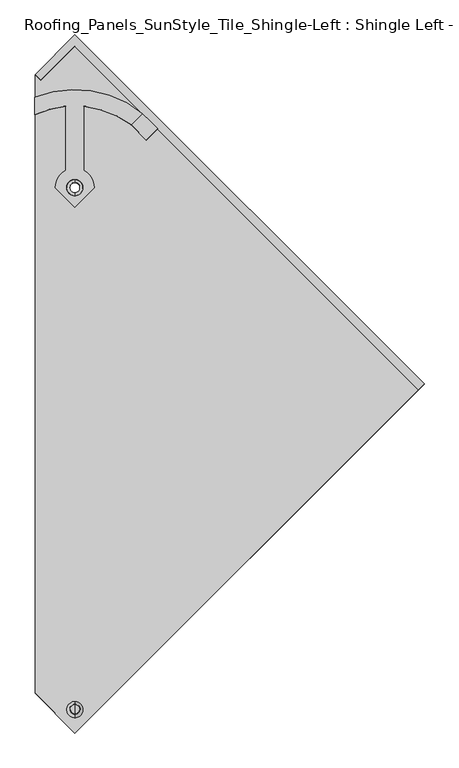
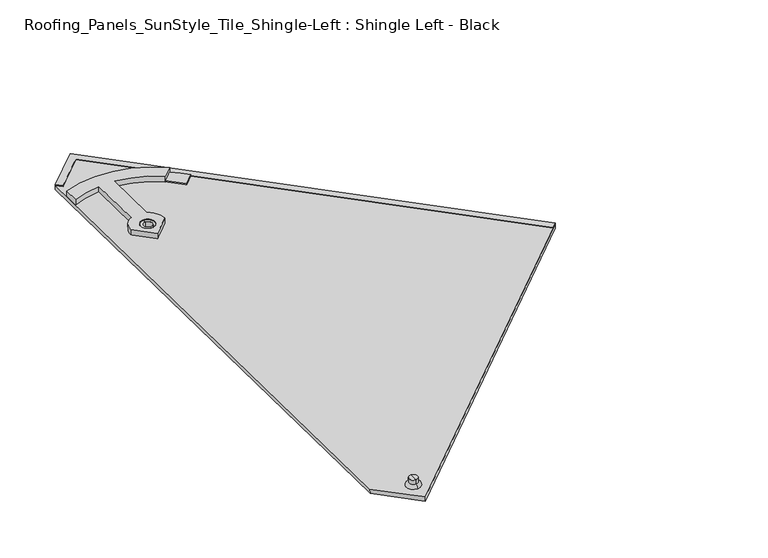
"""IFC4 building model written with IfcOpenShell, lengths in millimetres: proxy geometry, Roofing_Panels_SunStyle_Tile_Shingle-Left : Shingle Left - Black."""

from ifc_helpers import new_model, si_unit, point, frame, frame_2d, origin, place, context, project, spatial, polyline, circle_curve, ellipse_curve, trimmed, segment, composite_curve, outline, extrude, source, transform, mapped, element, save
from ifc_brep_helpers import plane_surface, cylinder_surface, revolved_surface, advanced_brep


def roofing_panels_sunstyle_tile_shingle_left_shingle_left_black_59aad734(model_context):
    return source(origin(), model_context, "Body", "SolidModel", [
        advanced_brep(
        [(0.0, -497.7570319, 26.2215343), (0.0, -484.4239514, 25.9982384), (0.0, -484.7922605, 4.0063691), (0.0, -498.125341, 4.229665), (0.0, -503.2562608, 26.3136327), (0.0, -478.9247225, 25.90614), (0.0, -498.3072645, 31.2274395), (0.0, -483.7064015, 30.9829114), (0.0, -490.8728045, 39.1080636), (0.0, -483.572373, 38.9857996), (0.0, -498.173236, 39.2303277), (0.0, -491.4588007, 4.118017)],
        [
            (0, 1, circle_curve(frame((0.0, -491.0904916, 26.1098864), z_axis=(0.0, -0.016745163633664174, -0.9998597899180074), x_axis=(0.0, 0.9998597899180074, -0.016745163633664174)), 6.6674751)),
            (1, 2),
            (2, 3, circle_curve(frame((0.0, -491.4588007, 4.118017), z_axis=(0.0, 0.016745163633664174, 0.9998597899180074), x_axis=(0.0, 0.9998597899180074, -0.016745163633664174)), 6.6674751)),
            (3, 0),
            (1, 0, circle_curve(frame((0.0, -491.0904916, 26.1098864), z_axis=(0.0, -0.016745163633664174, -0.9998597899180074), x_axis=(0.0, 0.9998597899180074, -0.016745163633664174)), 6.6674751)),
            (3, 2, circle_curve(frame((0.0, -491.4588007, 4.118017), z_axis=(0.0, 0.016745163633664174, 0.9998597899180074), x_axis=(0.0, 0.9998597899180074, -0.016745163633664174)), 6.6674751)),
            (4, 5, circle_curve(frame((0.0, -491.0904916, 26.1098864), z_axis=(0.0, -0.016745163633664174, -0.9998597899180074), x_axis=(0.0, 0.9998597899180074, -0.016745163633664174)), 12.1674751)),
            (5, 1),
            (0, 4),
            (5, 4, circle_curve(frame((0.0, -491.0904916, 26.1098864), z_axis=(0.0, -0.016745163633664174, -0.9998597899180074), x_axis=(0.0, 0.9998597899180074, -0.016745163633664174)), 12.1674751)),
            (6, 7, circle_curve(frame((0.0, -491.006833, 31.1051755), z_axis=(0.0, -0.016745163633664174, -0.9998597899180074), x_axis=(0.0, 0.9998597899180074, -0.016745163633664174)), 7.3014552)),
            (7, 5, circle_curve(frame((0.0, -484.0105995, 25.90614), z_axis=(-1.0, 0.0, 0.0), x_axis=(0.0, -1.0, 0.0)), 5.0858769)),
            (4, 6, circle_curve(frame((0.0, -498.173236, 26.1433289), z_axis=(-1.0, 0.0, 0.0), x_axis=(0.0, 0.9994391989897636, -0.03348563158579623)), 5.0858769)),
            (7, 6, circle_curve(frame((0.0, -491.006833, 31.1051755), z_axis=(0.0, -0.016745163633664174, -0.9998597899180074), x_axis=(0.0, 0.9998597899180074, -0.016745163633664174)), 7.3014552)),
            (8, 9),
            (9, 10, circle_curve(frame((0.0, -490.8728045, 39.1080636), z_axis=(0.0, 0.016745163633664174, 0.9998597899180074), x_axis=(0.0, 0.9998597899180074, -0.016745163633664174)), 7.3014552)),
            (10, 8),
            (10, 9, circle_curve(frame((0.0, -490.8728045, 39.1080636), z_axis=(0.0, 0.016745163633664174, 0.9998597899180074), x_axis=(0.0, 0.9998597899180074, -0.016745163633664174)), 7.3014552)),
            (2, 11),
            (11, 3),
            (9, 7),
            (6, 10),
        ],
        [
            cylinder_surface(frame((0.0, -490.8728045, 39.1080636), z_axis=(0.0, 0.016745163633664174, 0.9998597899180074), x_axis=(0.0, 0.9998597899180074, -0.016745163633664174)), 6.6674751),
            plane_surface(frame((0.0, -491.0904916, 26.1098864), z_axis=(0.0, -0.016745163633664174, -0.9998597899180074), x_axis=(0.0, 0.9998597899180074, -0.016745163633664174))),
            revolved_surface(trimmed(ellipse_curve(frame((0.0, -484.0105995, 25.90614), z_axis=(1.0, 0.0, 0.0), x_axis=(0.0, -1.0, 0.0)), 5.0858769, 5.0858769), [point((0.0, -478.9247225, 25.90614))], [point((0.0, -483.7064015, 30.9829114))], True, "CARTESIAN"), (0.0, -490.8728045, 39.1080636), (0.0, 0.016745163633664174, 0.9998597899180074)),
            plane_surface(frame((0.0, -490.8728045, 39.1080636), z_axis=(0.0, 0.016745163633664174, 0.9998597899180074), x_axis=(0.0, 0.9998597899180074, -0.016745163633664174))),
            plane_surface(frame((0.0, -491.4588007, 4.118017), z_axis=(0.0, -0.016745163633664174, -0.9998597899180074), x_axis=(0.0, 0.9998597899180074, -0.016745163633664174))),
            cylinder_surface(frame((0.0, -490.8728045, 39.1080636), z_axis=(0.0, 0.016745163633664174, 0.9998597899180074), x_axis=(0.0, 0.9998597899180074, -0.016745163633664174)), 7.3014552),
        ],
        [
            (0, [[1, 2, 3, 4]]),
            (0, [[5, -4, 6, -2]]),
            (1, [[7, 8, -1, 9]]),
            (1, [[10, -9, -5, -8]]),
            (2, [[11, 12, -7, 13]]),
            (2, [[14, -13, -10, -12]]),
            (3, [[15, 16, 17]]),
            (3, [[-17, 18, -15]]),
            (4, [[-3, 19, 20]]),
            (4, [[-6, -20, -19]]),
            (5, [[-16, 21, -11, 22]]),
            (5, [[-18, -22, -14, -21]]),
        ],
    ),
        advanced_brep(
        [(0.0, 288.8387329, 20.2084559), (0.0, 304.1715338, 19.9516697), (0.0, 308.6709025, 19.8763164), (0.0, 284.3393642, 20.2838092), (0.0, 288.5708107, 4.2106993), (0.0, 303.9036108, 3.953913), (0.0, 284.0714416, 4.2860525), (0.0, 308.4029798, 3.8785598)],
        [
            (0, 1, circle_curve(frame((0.0, 296.5051333, 20.0800628), z_axis=(0.0, -0.016745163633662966, -0.9998597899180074), x_axis=(0.0, 0.9998597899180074, -0.016745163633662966)), 7.6674755)),
            (1, 2),
            (2, 3, circle_curve(frame((0.0, 296.5051333, 20.0800628), z_axis=(0.0, 0.016745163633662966, 0.9998597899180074), x_axis=(0.0, 0.9998597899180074, -0.016745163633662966)), 12.1674751)),
            (3, 0),
            (1, 0, circle_curve(frame((0.0, 296.5051333, 20.0800628), z_axis=(0.0, -0.016745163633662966, -0.9998597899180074), x_axis=(0.0, 0.9998597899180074, -0.016745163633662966)), 7.6674755)),
            (3, 2, circle_curve(frame((0.0, 296.5051333, 20.0800628), z_axis=(0.0, 0.016745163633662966, 0.9998597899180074), x_axis=(0.0, 0.9998597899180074, -0.016745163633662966)), 12.1674751)),
            (4, 5, circle_curve(frame((0.0, 296.2372107, 4.0823062), z_axis=(0.0, -0.016745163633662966, -0.9998597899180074), x_axis=(0.0, 0.9998597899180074, -0.016745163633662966)), 7.6674751)),
            (5, 1),
            (0, 4),
            (5, 4, circle_curve(frame((0.0, 296.2372107, 4.0823062), z_axis=(0.0, -0.016745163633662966, -0.9998597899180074), x_axis=(0.0, 0.9998597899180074, -0.016745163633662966)), 7.6674751)),
            (6, 7, circle_curve(frame((0.0, 296.2372107, 4.0823062), z_axis=(0.0, -0.016745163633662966, -0.9998597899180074), x_axis=(0.0, 0.9998597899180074, -0.016745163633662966)), 12.1674751)),
            (7, 5),
            (4, 6),
            (7, 6, circle_curve(frame((0.0, 296.2372107, 4.0823062), z_axis=(0.0, -0.016745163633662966, -0.9998597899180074), x_axis=(0.0, 0.9998597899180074, -0.016745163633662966)), 12.1674751)),
            (2, 7),
            (6, 3),
        ],
        [
            plane_surface(frame((0.0, 296.5051333, 20.0800628), z_axis=(0.0, 0.016745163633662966, 0.9998597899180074), x_axis=(0.0, 0.9998597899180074, -0.016745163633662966))),
            revolved_surface(polyline([(0.0, 304.1715333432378, 19.951669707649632), (0.0, 303.9036107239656, 3.9539130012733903)]), (0.0, 296.5051333, 20.0800628), (0.0, 0.016745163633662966, 0.9998597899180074)),
            plane_surface(frame((0.0, 296.2372107, 4.0823062), z_axis=(0.0, -0.016745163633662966, -0.9998597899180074), x_axis=(0.0, 0.9998597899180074, -0.016745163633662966))),
            cylinder_surface(frame((0.0, 296.5051333, 20.0800628), z_axis=(0.0, 0.016745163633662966, 0.9998597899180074), x_axis=(0.0, 0.9998597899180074, -0.016745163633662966)), 12.1674751),
        ],
        [
            (0, [[1, 2, 3, 4]]),
            (0, [[5, -4, 6, -2]]),
            (1, [[7, 8, -1, 9]]),
            (1, [[10, -9, -5, -8]]),
            (2, [[11, 12, -7, 13]]),
            (2, [[14, -13, -10, -12]]),
            (3, [[-3, 15, -11, 16]]),
            (3, [[-6, -16, -14, -15]]),
        ],
    ),
        extrude(outline(polyline([(0.0, -12.0000001), (0.0, 0.0), (732.9494561, 0.0), (732.9596915, 72.9952669), (744.9596913, 72.9935844), (744.9477736, -12.0), (0.0, -12.0000001)])), frame((518.3098655, -8.2117179, 16.4411501), z_axis=(0.0, 0.016745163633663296, 0.9998597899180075), x_axis=(-0.7071563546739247, 0.7069580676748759, -0.011839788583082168)), (0.0, 0.0, 1.0), 1.5),
        extrude(outline(polyline([(932.8194545, 0.0), (932.923911, -744.9477663), (187.9761374, -744.9477663), (187.9642196, -659.9541819), (847.8258692, 0.0), (932.8194545, 0.0)]), holes=[composite_curve([segment(trimmed(circle_curve(frame_2d((212.9253223, -719.9427176)), 8.0), [point((207.2680714, -714.2862599))], [point((218.5825731, -725.5991752))], True, "CARTESIAN"), True, "CONTINUOUS"), segment(trimmed(circle_curve(frame_2d((212.9253223, -719.9427176)), 8.0), [point((218.5825731, -725.5991752))], [point((207.2680714, -714.2862599))], True, "CARTESIAN"), True, "CONTINUOUS")], self_intersect=False), composite_curve([segment(trimmed(circle_curve(frame_2d((770.0336709, -162.7844939)), 12.0), [point((761.5477946, -154.2998074))], [point((778.5195471, -171.2691803))], True, "CARTESIAN"), True, "CONTINUOUS"), segment(trimmed(circle_curve(frame_2d((770.0336709, -162.7844939)), 12.0), [point((778.5195471, -171.2691803))], [point((761.5477946, -154.2998074))], True, "CARTESIAN"), True, "CONTINUOUS")], self_intersect=False)]), frame((-659.649205, -132.6700206, 11.0244653), z_axis=(0.0, 0.01674516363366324, 0.9998597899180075), x_axis=(0.7071563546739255, 0.7069580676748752, -0.011839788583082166)), (0.0, 0.0, 1.0), 7.5),
        advanced_brep(
        [(-60.2957265, 433.0026731, 19.0533092), (-60.2957265, 406.2764405, 19.5009071), (-13.4919726, 419.1243502, 19.2857365), (-13.4919726, 322.7165495, 20.9003273), (-29.5814007, 296.5124298, 21.3391811), (-0.1919726, 267.1271225, 21.8313119), (29.1974554, 296.5124298, 21.3391811), (13.1080274, 322.7165495, 20.9003273), (13.1080274, 419.1243502, 19.2857365), (84.7524234, 391.23244, 19.7528566), (101.8355992, 408.3132205, 19.4667961), (-12.1919726, 296.5124298, 21.3391811), (11.8080274, 296.5124298, 21.3391811), (-60.2957265, 432.8352215, 9.0547113), (101.8355992, 408.1457689, 9.4681982), (101.362882, 407.673118, 9.4761139), (113.6848706, 396.5594805, 9.6622397), (125.0242483, 385.2232824, 9.8520928), (108.0270978, 368.2285151, 10.1367128), (84.9693798, 391.2830001, 9.7506076), (84.7524234, 391.0649884, 9.7542587), (13.1080274, 418.9568985, 9.2871386), (13.1080274, 322.5490979, 10.9017294), (29.1974554, 296.3449782, 11.3405832), (-0.1919726, 266.9596708, 11.832714), (-29.5814007, 296.3449782, 11.3405832), (-13.4919726, 322.5490979, 10.9017294), (-13.4919726, 418.9568985, 9.2871386), (-60.2957265, 406.1089889, 9.5023092), (-12.1919726, 296.3449782, 11.3405832), (11.8080274, 296.3449782, 11.3405832), (125.0242483, 385.2651453, 12.3517423), (113.6848706, 396.6013434, 12.1618891), (101.3635509, 407.7144372, 11.9757725), (84.9699228, 391.3243202, 12.2502662), (108.0270978, 368.270378, 12.6363623)],
        [
            (0, 1),
            (1, 2, circle_curve(frame((-0.1919726, 279.0363215, 21.6318625), z_axis=(0.0, -0.01674516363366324, -0.9998597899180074), x_axis=(1.0, 0.0, 0.0)), 140.737522)),
            (2, 3),
            (3, 4, circle_curve(frame((-0.1919726, 296.5124298, 21.3391811), z_axis=(0.0, 0.01674516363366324, 0.9998597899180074), x_axis=(1.0, 0.0, 0.0)), 29.3894281)),
            (4, 5),
            (5, 6),
            (6, 7, circle_curve(frame((-0.1919726, 296.5124298, 21.3391811), z_axis=(0.0, 0.01674516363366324, 0.9998597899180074), x_axis=(1.0, 0.0, 0.0)), 29.3894281)),
            (7, 8),
            (8, 9, circle_curve(frame((-0.1919726, 279.0363215, 21.6318625), z_axis=(0.0, -0.01674516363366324, -0.9998597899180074), x_axis=(1.0, 0.0, 0.0)), 140.737522)),
            (9, 10),
            (10, 0, circle_curve(frame((-0.1919726, 283.0433477, 21.5647547), z_axis=(0.0, 0.01674516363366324, 0.9998597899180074), x_axis=(1.0, 0.0, 0.0)), 161.57527)),
            (11, 12, circle_curve(frame((-0.1919726, 296.5124298, 21.3391811), z_axis=(0.0, -0.01674516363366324, -0.9998597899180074), x_axis=(1.0, 0.0, 0.0)), 12.0)),
            (12, 11, circle_curve(frame((-0.1919726, 296.5124298, 21.3391811), z_axis=(0.0, -0.01674516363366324, -0.9998597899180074), x_axis=(1.0, 0.0, 0.0)), 12.0)),
            (13, 14, circle_curve(frame((-0.1919726, 282.8758961, 11.5661568), z_axis=(0.0, -0.01674516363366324, -0.9998597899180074), x_axis=(1.0, 0.0, 0.0)), 161.57527)),
            (14, 15),
            (15, 16, circle_curve(frame((-0.5580881, 282.3165218, 11.575525), z_axis=(0.0, -0.01674516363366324, -0.9998597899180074), x_axis=(1.0, 0.0, 0.0)), 161.57527)),
            (16, 17),
            (17, 18),
            (18, 19),
            (19, 20),
            (20, 21, circle_curve(frame((-0.1919726, 278.8688698, 11.6332646), z_axis=(0.0, 0.01674516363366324, 0.9998597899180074), x_axis=(1.0, 0.0, 0.0)), 140.737522)),
            (21, 22),
            (22, 23, circle_curve(frame((-0.1919726, 296.3449782, 11.3405832), z_axis=(0.0, -0.01674516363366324, -0.9998597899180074), x_axis=(1.0, 0.0, 0.0)), 29.3894281)),
            (23, 24),
            (24, 25),
            (25, 26, circle_curve(frame((-0.1919726, 296.3449782, 11.3405832), z_axis=(0.0, -0.01674516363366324, -0.9998597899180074), x_axis=(1.0, 0.0, 0.0)), 29.3894281)),
            (26, 27),
            (27, 28, circle_curve(frame((-0.1919726, 278.8688698, 11.6332646), z_axis=(0.0, 0.01674516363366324, 0.9998597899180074), x_axis=(1.0, 0.0, 0.0)), 140.737522)),
            (28, 13),
            (29, 30, circle_curve(frame((-0.1919726, 296.3449782, 11.3405832), z_axis=(0.0, 0.01674516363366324, 0.9998597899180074), x_axis=(1.0, 0.0, 0.0)), 12.0)),
            (30, 29, circle_curve(frame((-0.1919726, 296.3449782, 11.3405832), z_axis=(0.0, 0.01674516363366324, 0.9998597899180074), x_axis=(1.0, 0.0, 0.0)), 12.0)),
            (2, 27),
            (26, 3),
            (25, 4),
            (24, 5),
            (23, 6),
            (22, 7),
            (21, 8),
            (10, 14),
            (13, 0),
            (11, 29),
            (30, 12),
            (31, 32),
            (32, 33, circle_curve(frame((-0.5580881, 282.3583847, 14.0751744), z_axis=(0.0, 0.01674516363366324, 0.9998597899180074), x_axis=(1.0, 0.0, 0.0)), 161.57527)),
            (33, 34),
            (34, 35),
            (35, 31),
            (31, 17),
            (16, 32),
            (35, 18),
            (15, 33),
            (34, 19),
            (9, 20),
            (1, 28),
        ],
        [
            plane_surface(frame((-60.2957265, 468.3766789, 18.4608826), z_axis=(0.0, 0.01674516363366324, 0.9998597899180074), x_axis=(0.0, -0.9998597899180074, 0.01674516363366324))),
            plane_surface(frame((-60.2957265, 468.2092272, 8.4622847), z_axis=(0.0, -0.01674516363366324, -0.9998597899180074), x_axis=(0.0, 0.9998597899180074, -0.01674516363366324))),
            plane_surface(frame((-13.4919726, 419.1243502, 19.2857365), z_axis=(-1.0000000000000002, 0.0, 0.0), x_axis=(0.0, -0.01674516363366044, -0.9998597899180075))),
            cylinder_surface(frame((-0.1919726, 296.3449782, 11.3405832), z_axis=(0.0, 0.01674516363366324, 0.9998597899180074), x_axis=(1.0, 0.0, 0.0)), 29.3894281),
            plane_surface(frame((-29.5814007, 296.5124298, 21.3391811), z_axis=(-0.7071067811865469, -0.7070076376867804, 0.011840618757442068), x_axis=(0.0, -0.016745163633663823, -0.9998597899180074))),
            plane_surface(frame((-0.1919726, 267.1271225, 21.8313119), z_axis=(0.7071067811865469, -0.7070076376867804, 0.011840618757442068), x_axis=(0.0, -0.016745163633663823, -0.9998597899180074))),
            plane_surface(frame((13.1080274, 322.7165495, 20.9003273), z_axis=(1.0000000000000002, 0.0, 0.0), x_axis=(0.0, -0.016745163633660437, -0.9998597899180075))),
            cylinder_surface(frame((-0.1919726, 282.8758961, 11.5661568), z_axis=(0.0, 0.01674516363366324, 0.9998597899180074), x_axis=(1.0, 0.0, 0.0)), 161.57527),
            revolved_surface(polyline([(11.8080274, 296.3449782, 11.3405832), (11.8080274, 296.5124298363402, 21.339181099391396)]), (-0.1919726, 296.3449782, 11.3405832), (0.0, -0.01674516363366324, -0.9998597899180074)),
            plane_surface(frame((128.2926527, 381.9976574, 12.4064645), z_axis=(0.0, 0.01674516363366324, 0.9998597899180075), x_axis=(-0.7071563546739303, 0.7069580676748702, -0.011839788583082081))),
            plane_surface(frame((125.0242483, 385.2651453, 12.3517423), z_axis=(0.7070572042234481, 0.7070572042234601, -0.011841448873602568), x_axis=(0.0, -0.016745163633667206, -0.9998597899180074))),
            plane_surface(frame((108.0270978, 368.270378, 12.6363623), z_axis=(0.707106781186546, -0.7070076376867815, 0.01184061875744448), x_axis=(0.0, -0.016745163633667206, -0.9998597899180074))),
            cylinder_surface(frame((-0.5580881, 282.3165218, 11.575525), z_axis=(0.0, 0.01674516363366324, 0.9998597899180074), x_axis=(1.0, 0.0, 0.0)), 161.57527),
            plane_surface(frame((84.9693798, 391.324863, 12.2502571), z_axis=(-0.7071067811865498, -0.7070076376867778, 0.011840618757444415), x_axis=(0.0, -0.016745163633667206, -0.9998597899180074))),
            plane_surface(frame((84.7524234, 391.23244, 19.7528566), z_axis=(0.7071067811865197, -0.707007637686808, 0.011840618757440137), x_axis=(0.0, -0.016745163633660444, -0.9998597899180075))),
            revolved_surface(polyline([(140.5455494, 278.8688697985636, 11.633264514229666), (140.5455494, 279.0363214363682, 21.631862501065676)]), (-0.1919726, 278.8688698, 11.6332646), (0.0, -0.01674516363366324, -0.9998597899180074)),
            plane_surface(frame((-60.2957265, 433.0026731, 19.0533092), z_axis=(-1.0000000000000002, 0.0, 0.0), x_axis=(0.0, -0.01674516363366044, -0.9998597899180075))),
        ],
        [
            (0, [[1, 2, 3, 4, 5, 6, 7, 8, 9, 10, 11], [12, 13]]),
            (1, [[14, 15, 16, 17, 18, 19, 20, 21, 22, 23, 24, 25, 26, 27, 28, 29], [30, 31]]),
            (2, [[-3, 32, -27, 33]]),
            (3, [[-4, -33, -26, 34]]),
            (4, [[-5, -34, -25, 35]]),
            (5, [[-6, -35, -24, 36]]),
            (3, [[-7, -36, -23, 37]]),
            (6, [[-8, -37, -22, 38]]),
            (7, [[-11, 39, -14, 40]]),
            (8, [[-12, 41, -31, 42]]),
            (8, [[-13, -42, -30, -41]]),
            (9, [[43, 44, 45, 46, 47]]),
            (10, [[-43, 48, -17, 49]]),
            (11, [[-47, 50, -18, -48]]),
            (12, [[-44, -49, -16, 51]]),
            (13, [[-46, 52, -19, -50]]),
            (14, [[-10, 53, -20, -52, -45, -51, -15, -39]]),
            (15, [[-2, 54, -28, -32]]),
            (15, [[-9, -38, -21, -53]]),
            (16, [[-1, -40, -29, -54]]),
        ],
    ),
    ])


if __name__ == "__main__":
    model = new_model("IFC4")
    model_context = context("Model", 3, world=origin())
    ifc_project = project(units=[si_unit("LENGTHUNIT", "METRE", prefix="MILLI")], contexts=[model_context])
    site = spatial("IfcSite", under=ifc_project)
    building = spatial("IfcBuilding", under=site)
    placement = place(None, origin())
    roofing_panels_sunstyle_tile_shingle_left_shingle_left_black_shape = roofing_panels_sunstyle_tile_shingle_left_shingle_left_black_59aad734(model_context)
    element("IfcBuildingElementProxy", 1, Name="Roofing_Panels_SunStyle_Tile_Shingle-Left : Shingle Left - Black", ObjectType="Roofing_Panels_SunStyle_Tile_Shingle-Left : Shingle Left - Black", at=placement, inside=building, context=model_context, shape_type="MappedRepresentation", body=[
        mapped(roofing_panels_sunstyle_tile_shingle_left_shingle_left_black_shape, transform((0.0, 0.0, 0.0), x_axis=(1.0, 0.0, 0.0), y_axis=(0.0, 1.0, 0.0), z_axis=(0.0, 0.0, 1.0))),
    ])
    save(model, "model.ifc")
